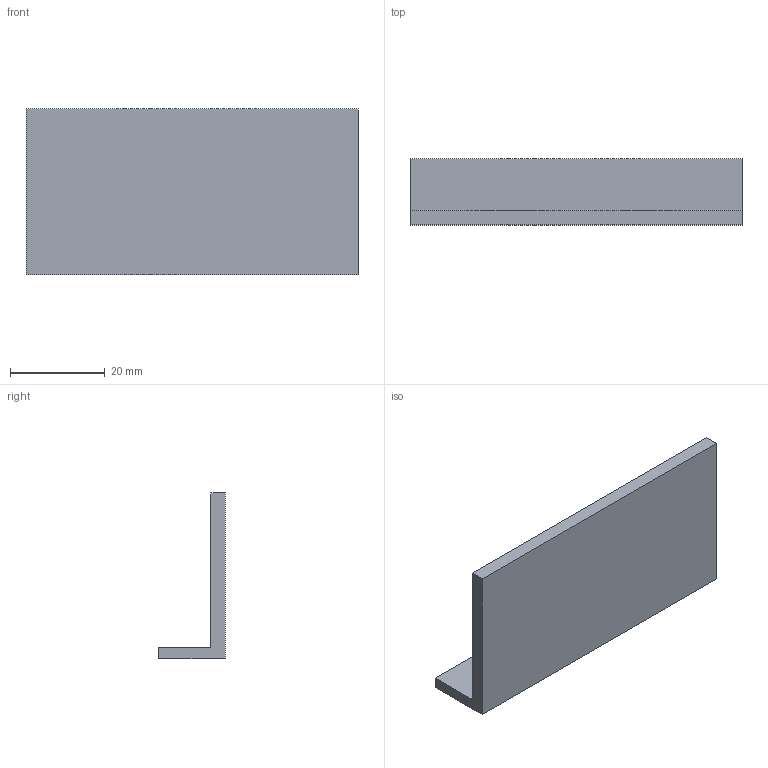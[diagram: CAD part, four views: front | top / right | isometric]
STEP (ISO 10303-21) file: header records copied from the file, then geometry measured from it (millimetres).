
FILE_DESCRIPTION(('FreeCAD Model'),'2;1');
FILE_NAME('Open CASCADE Shape Model','2026-09-11T13:41:38',( '' ),( '' ),'Open CASCADE STEP processor 7.8','FreeCAD','Unknown');
FILE_SCHEMA(('AUTOMOTIVE_DESIGN { 1 0 10303 214 1 1 1 1 }'));
Length unit declared in the file: millimetre
Products named in the file (1): Open CASCADE STEP translator 7.8 24
Bounding box: 70 x 14 x 35 mm (x, y, z)
Volume: 8374.3 mm3; surface area: 7350.3 mm2
Topology: 1 solids, 1 shells, 12 faces, 24 edges, 16 vertices
Faces by surface type: plane 10, cylinder 2
Full cylindrical faces by diameter (mm): 12.2 x1, 16.2 x1
Entity records: 322 total; most frequent: DIRECTION 54, CARTESIAN_POINT 53, ORIENTED_EDGE 48, EDGE_CURVE 24, LINE 20, VECTOR 20, AXIS2_PLACEMENT_3D 17, VERTEX_POINT 16
